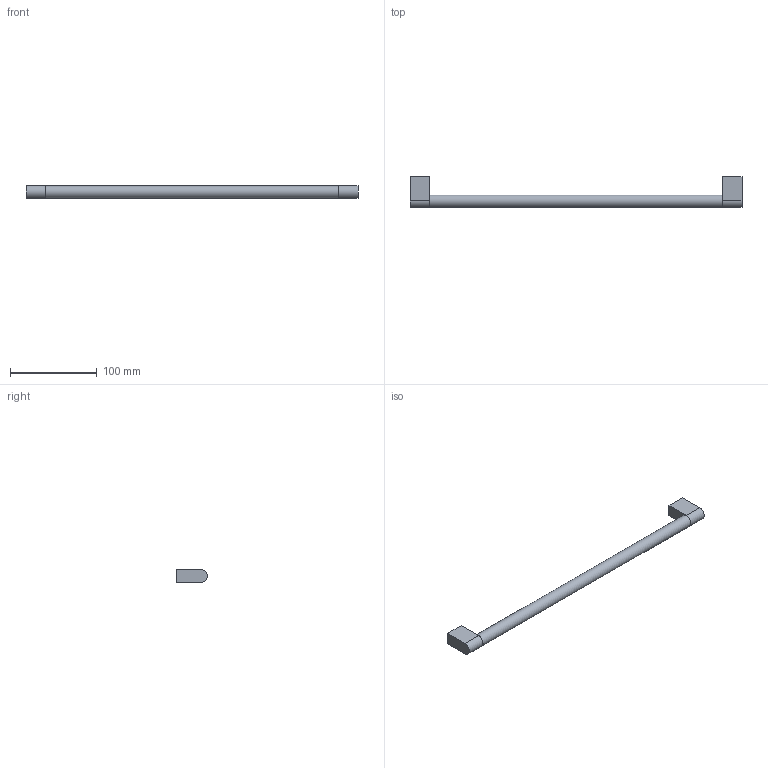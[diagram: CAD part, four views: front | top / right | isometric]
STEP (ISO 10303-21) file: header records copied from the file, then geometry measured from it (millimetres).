
FILE_DESCRIPTION( ( 'STEP AP214' ), '1' );
FILE_NAME( 'C:/Shahbaz/Shahbaz D&D/Task/Working-ON/Varna/QC/9332353.stp', '2023-08-29T06:59:01', ( '' ), ( '' ), ' ', 'PARTsolutions', ' ' );
FILE_SCHEMA( ( 'AUTOMOTIVE_DESIGN { 1 0 10303 214 1 1 1 1 }' ) );
Length unit declared in the file: millimetre
Products named in the file (1): _9332353
Bounding box: 382 x 35.36 x 14.64 mm (x, y, z)
Volume: 74388.2 mm3; surface area: 21448.2 mm2
Topology: 1 solids, 1 shells, 17 faces, 33 edges, 22 vertices
Faces by surface type: plane 12, cylinder 5
Full cylindrical faces by diameter (mm): 6.2 x2, 14.2 x1
Entity records: 574 total; most frequent: DIRECTION 76, CARTESIAN_POINT 70, ORIENTED_EDGE 60, EDGE_CURVE 30, AXIS2_PLACEMENT_3D 28, EDGE_LOOP 24, VERTEX_POINT 22, FACE_OUTER_BOUND 20
